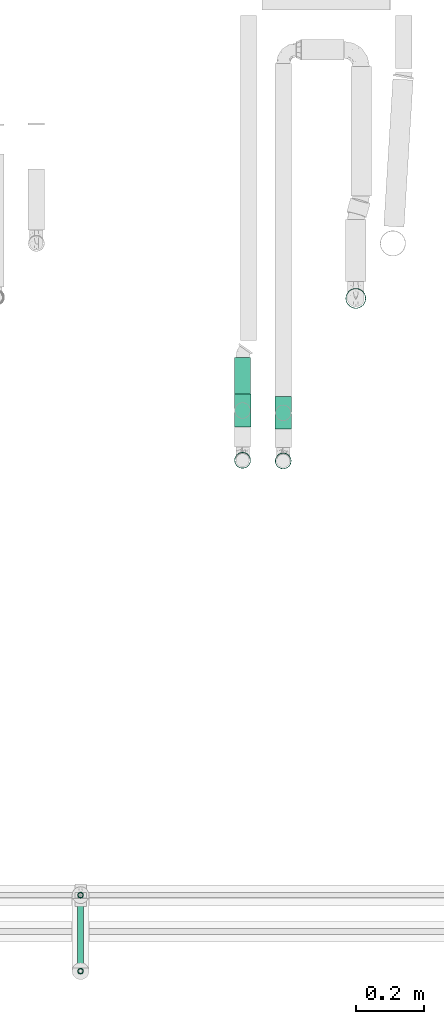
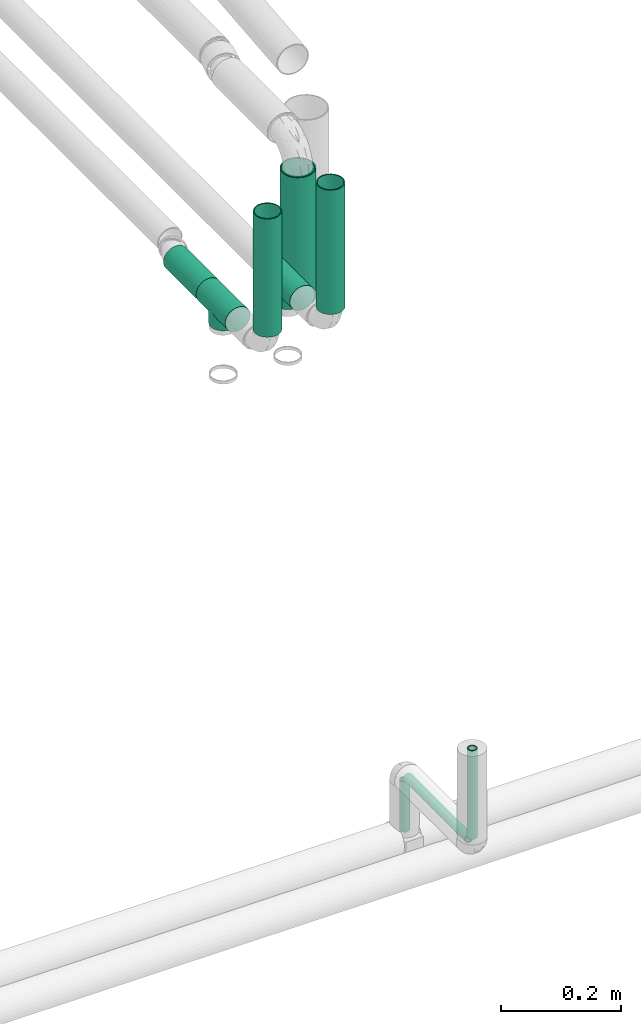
# One storey, part 74 of 156: 7 flow segments, 2 flow fittings.
"""IFC2X3 building model written with IfcOpenShell, lengths in millimetres."""

from ifc_helpers import new_model, entity, si_unit, converted_unit, derived_unit, direction, frame, origin_with_axes, origin_2d_with_axis, place, context, subcontext, project, spatial, hollow_circle, extrude, open_shell, surface_model, source, transform, mapped, type_object, element, save


model = new_model("IFC2X3")

# Units and contexts
model_context = context("Model", 3, precision=0.01, world=frame((0.0, 4.29681676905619e-09, 0.0)), true_north=direction((4.01073788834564e-13, 1.0)))
plan_context = context("Plan", 3, precision=0.01, world=frame((0.0, 4.29681676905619e-09, 0.0)), true_north=direction((4.01073788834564e-13, 1.0)))
body_context = subcontext(model_context, "Body", "Model", "MODEL_VIEW")
ifc_project = project(units=[converted_unit("PLANEANGLEUNIT", "DEGREE", entity("IfcPositiveLengthMeasure", 0.0174532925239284), si_unit("PLANEANGLEUNIT", "RADIAN"), dimensions=[0, 0, 0, 0, 0, 0, 0]), si_unit("AREAUNIT", "SQUARE_METRE"), si_unit("LENGTHUNIT", "METRE", prefix="MILLI"), si_unit("MASSUNIT", "GRAM", prefix="KILO"), si_unit("POWERUNIT", "WATT"), si_unit("PRESSUREUNIT", "PASCAL", prefix="KILO"), si_unit("FORCEUNIT", "NEWTON", prefix="KILO"), si_unit("ELECTRICVOLTAGEUNIT", "VOLT"), si_unit("ELECTRICCURRENTUNIT", "AMPERE"), si_unit("THERMODYNAMICTEMPERATUREUNIT", "DEGREE_CELSIUS"), si_unit("TIMEUNIT", "SECOND"), si_unit("VOLUMEUNIT", "CUBIC_METRE"), derived_unit("LINEARVELOCITYUNIT", [(si_unit("LENGTHUNIT", "METRE"), 1), (si_unit("TIMEUNIT", "SECOND"), -1)]), derived_unit("VOLUMETRICFLOWRATEUNIT", [(si_unit("VOLUMEUNIT", "CUBIC_METRE"), 1), (si_unit("TIMEUNIT", "SECOND"), -1)]), derived_unit("THERMALTRANSMITTANCEUNIT", [(si_unit("POWERUNIT", "WATT"), 1), (si_unit("THERMODYNAMICTEMPERATUREUNIT", "KELVIN"), -1), (si_unit("AREAUNIT", "SQUARE_METRE"), -1)]), derived_unit("SOUNDPRESSUREUNIT", [(si_unit("PRESSUREUNIT", "PASCAL"), 1)])], contexts=[model_context, plan_context])

# Site, building, storey
site_placement = place(None, frame((0.0, -4.29681676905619e-09, 0.0), z_axis=(0.0, 0.0, 1.0), x_axis=(1.0, 0.0, 0.0)))
site = spatial("IfcSite", under=ifc_project, at=site_placement, CompositionType="ELEMENT")
building_placement = place(site_placement, frame((0.0, 4.29681676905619e-09, 0.0), z_axis=(0.0, 0.0, 1.0), x_axis=(1.0, 0.0, 0.0)))
building = spatial("IfcBuilding", under=site, at=building_placement, Name="mc-building", CompositionType="ELEMENT")
storey_placement = place(building_placement, frame((0.0, 0.0, 205200.0), z_axis=(0.0, 0.0, 1.0), x_axis=(1.0, 0.0, 0.0)))
storey = spatial("IfcBuildingStorey", under=building, at=storey_placement, Name="Nivå D + 1,2 m", CompositionType="ELEMENT", Elevation=205200.0)

# Flow fittings
pipe_fitting_type = type_object("IfcPipeFittingType", Name="magi_pipe_fe_tee_centric_90_001", PredefinedType="JUNCTION")
shared_shape_1 = source(origin_with_axes(), body_context, "Body", "SurfaceModel", [
    surface_model("IfcShellBasedSurfaceModel", [(-48.4, 12.1, -20.95781), (-48.4, 6.26342, -23.37541), (-48.4, 17.11198, -17.11198), (-48.4, -20.95781, 12.1), (-48.4, -17.11198, 17.11198), (-48.4, -23.37541, 6.26342), (-48.4, 0.0, -24.2), (-48.4, -6.26342, -23.37541), (-48.4, 20.95781, -12.1), (-48.4, -23.37541, -6.26342), (-48.4, 23.37541, -6.26342), (-48.4, -12.1, -20.95781), (-48.4, -17.11198, -17.11198), (-48.4, -20.95781, -12.1), (-48.4, -24.2, 0.0), (-48.4, 20.95781, 12.1), (-48.4, 23.37541, 6.26342), (-48.4, 24.2, 0.0), (-48.4, 12.1, 20.95781), (-48.4, 17.11198, 17.11198), (-48.4, 6.26342, 23.37541), (-48.4, -12.1, 20.95781), (-48.4, -6.26342, 23.37541), (-48.4, 0.0, 24.2), (48.4, 6.26342, -23.37541), (48.4, -6.26342, -23.37541), (48.4, 0.0, -24.2), (48.4, 17.11198, -17.11198), (48.4, 12.1, -20.95781), (48.4, -23.37541, -6.26342), (48.4, 20.95781, -12.1), (48.4, 23.37541, -6.26342), (48.4, -17.11198, -17.11198), (48.4, -12.1, -20.95781), (48.4, -20.95781, -12.1), (48.4, -24.2, 0.0), (48.4, 24.2, 0.0), (48.4, 23.37541, 6.26342), (48.4, 20.95781, 12.1), (48.4, -23.37541, 6.26342), (48.4, -17.11198, 17.11198), (48.4, 12.1, 20.95781), (48.4, 17.11198, 17.11198), (48.4, 6.26342, 23.37541), (48.4, -20.95781, 12.1), (48.4, -12.1, 20.95781), (48.4, 0.0, 24.2), (48.4, -6.26342, 23.37541), (23.32218, -23.32218, 6.45878), (24.2, -24.2, 0.0), (20.94524, -20.94524, 12.12176), (13.56365, -13.56365, 20.04164), (17.56065, -17.56065, 16.65123), (-24.2, -24.2, 0.0), (-23.32218, -23.32218, 6.45878), (-20.94524, -20.94524, 12.12176), (-17.56065, -17.56065, 16.65123), (-13.56365, -13.56365, 20.04164), (-9.20594, -9.20594, 22.38059), (9.20594, -9.20594, 22.38059), (4.647, -4.647, 23.74964), (0.0, 0.0, 24.2), (-4.647, -4.647, 23.74964), (4.647, -4.647, -23.74964), (0.0, 0.0, -24.2), (-4.647, -4.647, -23.74964), (-9.20594, -9.20594, -22.38059), (9.20594, -9.20594, -22.38059), (13.56365, -13.56365, -20.04164), (17.56065, -17.56065, -16.65123), (20.94524, -20.94524, -12.12176), (23.32218, -23.32218, -6.45878), (-13.56365, -13.56365, -20.04164), (-17.56065, -17.56065, -16.65123), (-23.32218, -23.32218, -6.45878), (-20.94524, -20.94524, -12.12176), (0.0, -36.3, -24.2), (6.26342, -36.3, -23.37541), (12.1, -36.3, -20.95781), (12.1, -36.3, 20.95781), (17.11198, -36.3, -17.11198), (20.95781, -36.3, -12.1), (23.37541, -36.3, -6.26342), (-12.1, -36.3, -20.95781), (-20.95781, -36.3, -12.1), (-17.11198, -36.3, -17.11198), (-6.26342, -36.3, -23.37541), (-23.37541, -36.3, -6.26342), (-24.2, -36.3, 0.0), (24.2, -36.3, 0.0), (23.37541, -36.3, 6.26342), (20.95781, -36.3, 12.1), (-23.37541, -36.3, 6.26342), (17.11198, -36.3, 17.11198), (6.26342, -36.3, 23.37541), (-17.11198, -36.3, 17.11198), (-20.95781, -36.3, 12.1), (-12.1, -36.3, 20.95781), (0.0, -36.3, 24.2), (-6.26342, -36.3, 23.37541)], [open_shell([[[0, 1, 2]], [[3, 4, 5]], [[6, 7, 1]], [[8, 1, 9]], [[2, 1, 8]], [[10, 8, 9]], [[11, 12, 7]], [[13, 7, 12]], [[7, 13, 1]], [[13, 9, 1]], [[9, 14, 10]], [[14, 5, 10]], [[15, 16, 17]], [[15, 17, 5]], [[18, 19, 4]], [[5, 19, 15]], [[20, 18, 4]], [[4, 19, 5]], [[21, 22, 4]], [[23, 4, 22]], [[4, 23, 20]], [[10, 5, 17]], [[24, 25, 26]], [[27, 24, 28]], [[29, 24, 30]], [[30, 24, 27]], [[29, 30, 31]], [[25, 32, 33]], [[32, 25, 34]], [[24, 34, 25]], [[24, 29, 34]], [[31, 35, 29]], [[31, 36, 35]], [[36, 37, 38]], [[39, 36, 38]], [[40, 38, 41]], [[41, 38, 42]], [[40, 41, 43]], [[39, 40, 44]], [[39, 38, 40]], [[45, 46, 47]], [[46, 45, 40]], [[43, 46, 40]], [[36, 39, 35]], [[39, 44, 48]], [[35, 39, 49]], [[49, 39, 48]], [[44, 50, 48]], [[40, 45, 51]], [[50, 44, 52]], [[51, 52, 40]], [[52, 44, 40]], [[53, 54, 5]], [[53, 5, 14]], [[5, 54, 3]], [[54, 55, 3]], [[56, 57, 4]], [[4, 3, 56]], [[4, 57, 21]], [[56, 3, 55]], [[21, 57, 58]], [[51, 45, 59]], [[60, 46, 61]], [[59, 47, 60]], [[47, 59, 45]], [[60, 47, 46]], [[61, 46, 43]], [[38, 37, 16]], [[19, 41, 42]], [[15, 42, 38]], [[43, 41, 18]], [[17, 37, 36]], [[62, 61, 23]], [[62, 22, 58]], [[22, 62, 23]], [[58, 22, 21]], [[61, 20, 23]], [[43, 20, 61]], [[18, 20, 43]], [[18, 41, 19]], [[15, 19, 42]], [[16, 15, 38]], [[37, 17, 16]], [[27, 2, 30]], [[31, 10, 36]], [[31, 30, 8]], [[0, 27, 28]], [[26, 25, 63]], [[26, 64, 24]], [[64, 26, 63]], [[28, 24, 1]], [[64, 1, 24]], [[10, 31, 8]], [[30, 2, 8]], [[2, 27, 0]], [[36, 10, 17]], [[65, 66, 7]], [[6, 1, 64]], [[6, 65, 7]], [[66, 11, 7]], [[1, 0, 28]], [[6, 64, 65]], [[63, 25, 67]], [[33, 32, 68]], [[69, 68, 32]], [[34, 70, 69]], [[69, 32, 34]], [[33, 68, 67]], [[29, 35, 49]], [[29, 71, 34]], [[71, 29, 49]], [[34, 71, 70]], [[72, 11, 66]], [[72, 12, 11]], [[12, 72, 73]], [[12, 73, 13]], [[74, 53, 9]], [[75, 74, 13]], [[74, 9, 13]], [[9, 53, 14]], [[75, 13, 73]], [[33, 67, 25]], [[76, 77, 78]], [[79, 76, 78]], [[80, 81, 82]], [[80, 82, 78]], [[79, 83, 76]], [[83, 84, 85]], [[83, 86, 76]], [[83, 87, 84]], [[87, 83, 88]], [[83, 79, 88]], [[89, 78, 82]], [[89, 90, 91]], [[89, 91, 79]], [[79, 92, 88]], [[79, 91, 93]], [[92, 79, 94]], [[92, 95, 96]], [[92, 94, 95]], [[97, 98, 99]], [[98, 97, 95]], [[94, 98, 95]], [[79, 78, 89]], [[88, 92, 53]], [[54, 53, 92]], [[95, 97, 57]], [[54, 92, 96]], [[95, 56, 96]], [[58, 97, 99]], [[55, 54, 96]], [[56, 55, 96]], [[58, 57, 97]], [[98, 61, 62]], [[58, 99, 62]], [[56, 95, 57]], [[62, 99, 98]], [[60, 98, 94]], [[79, 59, 94]], [[91, 90, 48]], [[52, 93, 91]], [[51, 79, 93]], [[49, 90, 89]], [[59, 60, 94]], [[51, 59, 79]], [[49, 48, 90]], [[50, 52, 91]], [[48, 50, 91]], [[51, 93, 52]], [[98, 60, 61]], [[89, 82, 49]], [[71, 49, 82]], [[69, 81, 80]], [[80, 78, 68]], [[81, 71, 82]], [[67, 78, 77]], [[70, 71, 81]], [[69, 70, 81]], [[67, 68, 78]], [[76, 64, 63]], [[67, 77, 63]], [[69, 80, 68]], [[63, 77, 76]], [[65, 76, 86]], [[83, 66, 86]], [[84, 87, 74]], [[73, 85, 84]], [[72, 83, 85]], [[53, 87, 88]], [[66, 65, 86]], [[72, 66, 83]], [[53, 74, 87]], [[75, 73, 84]], [[74, 75, 84]], [[72, 85, 73]], [[76, 65, 64]]])]),
])
for number, where, z_axis, x_axis, name in (
    (1, (343633.85487, 460464.56688, 4249.42444999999), (-1.0, 0.0, 0.0), (0.0, -1.0, 0.0), "magi_pipe_fe_tee_centric_90_001"),
    (2, (343513.62466, 460471.48543, 4244.18497999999), (-1.0, 0.0, 0.0), (0.0, -1.0, 0.0), "magi_pipe_fe_tee_centric_90_001"),
):
    element("IfcFlowFitting", number, at=place(storey_placement, frame(where, z_axis=z_axis, x_axis=x_axis)), inside=storey, type_object=pipe_fitting_type, Name=name, context=body_context, shape_type="MappedRepresentation", body=[
        mapped(shared_shape_1, transform((0.0, 0.0, 0.0), scale=1.0)),
    ])

# Flow segments
pipe_segment_type = type_object("IfcPipeSegmentType", Name="Stålrør normaltykke", PredefinedType="RIGIDSEGMENT")
shared_shape_2 = source(origin_with_axes(), body_context, "Body", "SweptSolid", [
    extrude(hollow_circle(Radius=30.1, WallThickness=2.0, at=origin_2d_with_axis()), frame((0.0, 0.0, 0.0), z_axis=(1.0, 0.0, 0.0), x_axis=(0.0, 1.0, 0.0)), (0.0, 0.0, 1.0), 262.8),
])
flow_segment_1_placement = place(storey_placement, frame((343848.85487, 460803.54788, 3941.57445000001), z_axis=(0.0, 1.0, 0.0), x_axis=(0.0, 0.0, 1.0)))
element("IfcFlowSegment", 3, at=flow_segment_1_placement, inside=storey, type_object=pipe_segment_type, Name="Stålrør normaltykke", context=body_context, shape_type="MappedRepresentation", body=[
    mapped(shared_shape_2, transform((0.0, 0.0, 0.0), scale=1.0)),
])
shared_shape_3 = source(origin_with_axes(), body_context, "Body", "SweptSolid", [
    extrude(hollow_circle(Radius=24.1, WallThickness=2.0, at=origin_2d_with_axis()), frame((0.0, 0.0, 0.0), z_axis=(1.0, 0.0, 0.0), x_axis=(0.0, 1.0, 0.0)), (0.0, 0.0, 1.0), 252.6),
])
flow_segment_2_placement = place(storey_placement, frame((343633.85487, 460322.29788, 4542.0), z_axis=(0.0, 1.0, 0.0), x_axis=(0.0, 0.0, -1.0)))
element("IfcFlowSegment", 4, at=flow_segment_2_placement, inside=storey, type_object=pipe_segment_type, Name="Stålrør normaltykke", context=body_context, shape_type="MappedRepresentation", body=[
    mapped(shared_shape_3, transform((0.0, 0.0, 0.0), scale=1.0)),
])
shared_shape_4 = source(origin_with_axes(), body_context, "Body", "SweptSolid", [
    extrude(hollow_circle(Radius=24.1, WallThickness=2.0, at=origin_2d_with_axis()), frame((0.0, 0.0, 0.0), z_axis=(1.0, 0.0, 0.0), x_axis=(0.0, 1.0, 0.0)), (0.0, 0.0, 1.0), 240.2),
])
flow_segment_3_placement = place(storey_placement, frame((343513.62466, 460324.09861, 4524.38498), z_axis=(0.0, 1.0, 0.0), x_axis=(0.0, 0.0, -1.0)))
element("IfcFlowSegment", 5, at=flow_segment_3_placement, inside=storey, type_object=pipe_segment_type, Name="Stålrør normaltykke", context=body_context, shape_type="MappedRepresentation", body=[
    mapped(shared_shape_4, transform((0.0, 0.0, 0.0), scale=1.0)),
])
shared_shape_5 = source(origin_with_axes(), body_context, "Body", "SweptSolid", [
    extrude(hollow_circle(Radius=24.1, WallThickness=2.0, at=origin_2d_with_axis()), frame((0.0, 0.0, 0.0), z_axis=(1.0, 0.0, 0.0), x_axis=(0.0, 1.0, 0.0)), (0.0, 0.0, 1.0), 109.1),
])
flow_segment_4_placement = place(storey_placement, frame((343513.62466, 460519.88543, 4244.18497999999), z_axis=(0.0, 0.0, 1.0), x_axis=(0.0, 1.0, 0.0)))
element("IfcFlowSegment", 6, at=flow_segment_4_placement, inside=storey, type_object=pipe_segment_type, Name="Stålrør normaltykke", context=body_context, shape_type="MappedRepresentation", body=[
    mapped(shared_shape_5, transform((0.0, 0.0, 0.0), scale=1.0)),
])
shared_shape_6 = source(origin_with_axes(), body_context, "Body", "SweptSolid", [
    extrude(hollow_circle(Radius=8.6, WallThickness=2.0, at=origin_2d_with_axis()), frame((0.0, 0.0, 0.0), z_axis=(1.0, 0.0, 0.0), x_axis=(0.0, 1.0, 0.0)), (0.0, 0.0, 1.0), 102.1),
])
flow_segment_5_placement = place(storey_placement, frame((343033.7464, 459036.28651, 4216.22044), z_axis=(-1.0, 0.0, 0.0), x_axis=(0.0, 0.0, 1.0)))
element("IfcFlowSegment", 7, at=flow_segment_5_placement, inside=storey, type_object=pipe_segment_type, Name="Stålrør normaltykke", context=body_context, shape_type="MappedRepresentation", body=[
    mapped(shared_shape_6, transform((0.0, 0.0, 0.0), scale=1.0)),
])
shared_shape_7 = source(origin_with_axes(), body_context, "Body", "SweptSolid", [
    extrude(hollow_circle(Radius=8.6, WallThickness=2.0, at=origin_2d_with_axis()), frame((0.0, 0.0, 0.0), z_axis=(1.0, 0.0, 0.0), x_axis=(0.0, 1.0, 0.0)), (0.0, 0.0, 1.0), 205.0),
])
flow_segment_6_placement = place(storey_placement, frame((343033.7464, 459026.28651, 4328.32044000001), z_axis=(0.0, 0.0, 1.0), x_axis=(0.0, -1.0, 0.0)))
element("IfcFlowSegment", 8, at=flow_segment_6_placement, inside=storey, type_object=pipe_segment_type, Name="Stålrør normaltykke", context=body_context, shape_type="MappedRepresentation", body=[
    mapped(shared_shape_7, transform((0.0, 0.0, 0.0), scale=1.0)),
])
shared_shape_8 = source(origin_with_axes(), body_context, "Body", "SweptSolid", [
    extrude(hollow_circle(Radius=8.6, WallThickness=2.0, at=origin_2d_with_axis()), frame((0.0, 0.0, 0.0), z_axis=(1.0, 0.0, 0.0), x_axis=(0.0, 1.0, 0.0)), (0.0, 0.0, 1.0), 180.0),
])
flow_segment_7_placement = place(storey_placement, frame((343033.7464, 458811.28651, 4338.32044000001), z_axis=(-1.0, 0.0, 0.0), x_axis=(0.0, 0.0, 1.0)))
element("IfcFlowSegment", 9, at=flow_segment_7_placement, inside=storey, type_object=pipe_segment_type, Name="Stålrør normaltykke", context=body_context, shape_type="MappedRepresentation", body=[
    mapped(shared_shape_8, transform((0.0, 0.0, 0.0), scale=1.0)),
])

save(model, "model.ifc")
